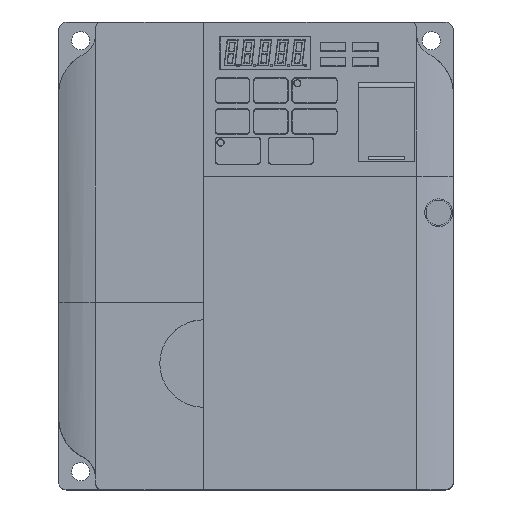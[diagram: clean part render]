
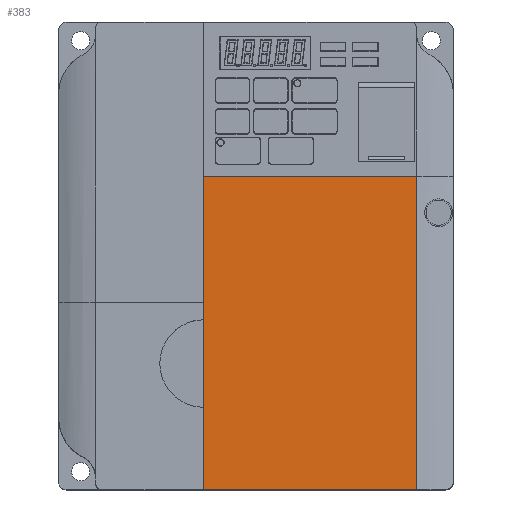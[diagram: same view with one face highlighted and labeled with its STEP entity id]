
A CAD part, top view. The second image highlights one B-rep face of the part: STEP entity #383.
In plain terms, the highlighted planar face has unit normal (0, 0, 1).
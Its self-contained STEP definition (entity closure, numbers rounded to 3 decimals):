
#2=DIRECTION('',(0.,1.,0.));
#3=VECTOR('',#2,85.8);
#4=CARTESIAN_POINT('',(-64.35,-75.8,7.919));
#5=LINE('',#4,#3);
#86=DIRECTION('',(-1.,0.,0.));
#87=VECTOR('',#86,58.35);
#88=CARTESIAN_POINT('',(-6.,-75.8,7.919));
#89=LINE('',#88,#87);
#99=DIRECTION('',(0.,-1.,0.));
#100=VECTOR('',#99,85.8);
#101=CARTESIAN_POINT('',(-6.,10.,7.919));
#102=LINE('',#101,#100);
#116=DIRECTION('',(1.,0.,0.));
#117=VECTOR('',#116,58.35);
#118=CARTESIAN_POINT('',(-64.35,10.,7.919));
#119=LINE('',#118,#117);
#312=CARTESIAN_POINT('',(-6.,-75.8,7.919));
#313=CARTESIAN_POINT('',(-64.35,-75.8,7.919));
#314=VERTEX_POINT('',#312);
#315=VERTEX_POINT('',#313);
#316=CARTESIAN_POINT('',(-64.35,10.,7.919));
#317=VERTEX_POINT('',#316);
#318=CARTESIAN_POINT('',(-6.,10.,7.919));
#319=VERTEX_POINT('',#318);
#368=CARTESIAN_POINT('',(-30.272,-32.779,7.919));
#369=DIRECTION('',(0.,0.,1.));
#370=DIRECTION('',(1.,0.,0.));
#371=AXIS2_PLACEMENT_3D('',#368,#369,#370);
#372=PLANE('',#371);
#374=ORIENTED_EDGE('',*,*,#373,.T.);
#376=ORIENTED_EDGE('',*,*,#375,.T.);
#378=ORIENTED_EDGE('',*,*,#377,.T.);
#380=ORIENTED_EDGE('',*,*,#379,.T.);
#381=EDGE_LOOP('',(#374,#376,#378,#380));
#382=FACE_OUTER_BOUND('',#381,.F.);
#383=ADVANCED_FACE('',(#382),#372,.T.);
#373=EDGE_CURVE('',#315,#317,#5,.T.);
#375=EDGE_CURVE('',#317,#319,#119,.T.);
#377=EDGE_CURVE('',#319,#314,#102,.T.);
#379=EDGE_CURVE('',#314,#315,#89,.T.);
